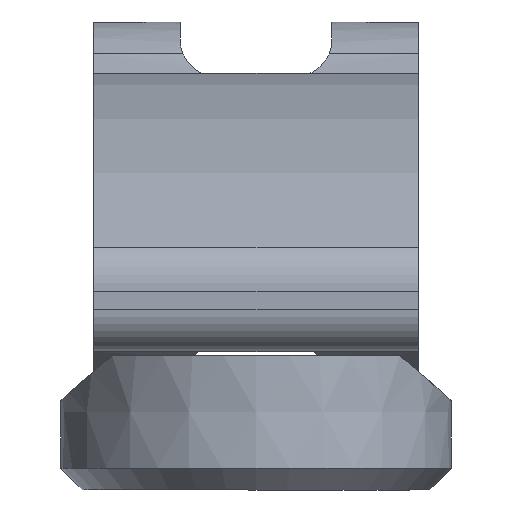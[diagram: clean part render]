
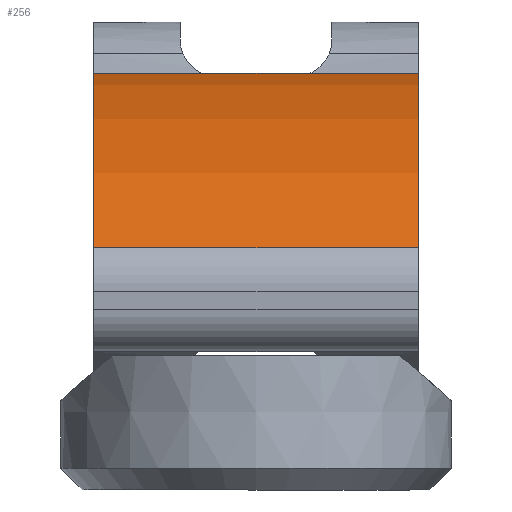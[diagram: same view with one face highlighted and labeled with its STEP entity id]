
A CAD part, left-side view. The second image highlights one B-rep face of the part: STEP entity #256.
In plain terms, the highlighted cylindrical face has radius 45.662 mm (diameter 91.324 mm), a partial arc.
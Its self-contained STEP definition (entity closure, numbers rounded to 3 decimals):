
#256=ADVANCED_FACE('',(#506),#508,.T.);
#506=FACE_BOUND('',#507,.T.);
#507=EDGE_LOOP('',(#671,#672,#673,#674));
#508=CYLINDRICAL_SURFACE('',#509,45.662);
#509=AXIS2_PLACEMENT_3D('',#510,#511,#512);
#510=CARTESIAN_POINT('',(-44.497,-15.,-39.353));
#511=DIRECTION('',(0.,1.,0.));
#512=DIRECTION('',(-0.546,0.,0.838));
#671=ORIENTED_EDGE('',*,*,#747,.T.);
#672=ORIENTED_EDGE('',*,*,#760,.T.);
#673=ORIENTED_EDGE('',*,*,#737,.F.);
#674=ORIENTED_EDGE('',*,*,#759,.F.);
#737=EDGE_CURVE('',#858,#860,#861,.T.);
#747=EDGE_CURVE('',#877,#875,#878,.T.);
#759=EDGE_CURVE('',#877,#858,#894,.T.);
#760=EDGE_CURVE('',#875,#860,#895,.T.);
#858=VERTEX_POINT('',#1761);
#860=VERTEX_POINT('',#1766);
#861=CIRCLE('',#1767,45.662);
#875=VERTEX_POINT('',#1807);
#877=VERTEX_POINT('',#1812);
#878=CIRCLE('',#1813,45.662);
#894=LINE('',#1858,#1859);
#895=LINE('',#1861,#1862);
#1761=CARTESIAN_POINT('',(-69.421,0.,-1.093));
#1766=CARTESIAN_POINT('',(-30.13,0.,3.99));
#1767=AXIS2_PLACEMENT_3D('',#1768,#1769,#1770);
#1768=CARTESIAN_POINT('',(-44.497,0.,-39.353));
#1769=DIRECTION('',(0.,1.,0.));
#1770=DIRECTION('',(-0.546,0.,0.838));
#1807=CARTESIAN_POINT('',(-30.13,-15.,3.99));
#1812=CARTESIAN_POINT('',(-69.421,-15.,-1.093));
#1813=AXIS2_PLACEMENT_3D('',#1814,#1815,#1816);
#1814=CARTESIAN_POINT('',(-44.497,-15.,-39.353));
#1815=DIRECTION('',(0.,1.,0.));
#1816=DIRECTION('',(-0.546,0.,0.838));
#1858=CARTESIAN_POINT('',(-69.421,-15.,-1.093));
#1859=VECTOR('',#1860,1.);
#1860=DIRECTION('',(0.,1.,0.));
#1861=CARTESIAN_POINT('',(-30.13,-15.,3.99));
#1862=VECTOR('',#1863,1.);
#1863=DIRECTION('',(0.,1.,0.));
